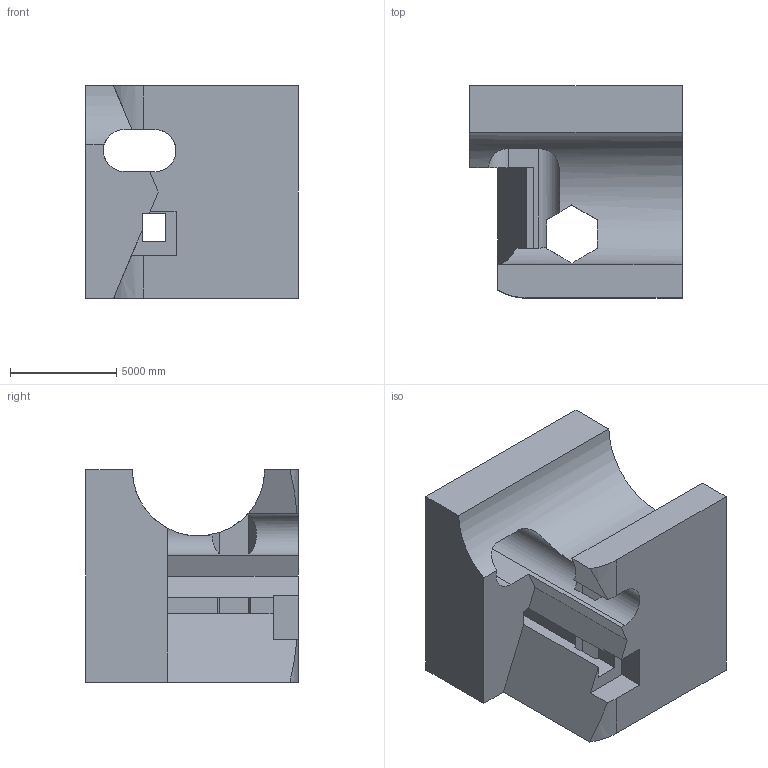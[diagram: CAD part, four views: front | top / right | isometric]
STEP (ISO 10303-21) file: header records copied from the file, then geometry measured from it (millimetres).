
FILE_DESCRIPTION (( 'STEP AP203' ), '1' );
FILE_NAME ('334.STEP', '2022-09-07T15:18:18', ( 'user' ), ( '' ), 'SwSTEP 2.0', 'SolidWorks 2021', '' );
FILE_SCHEMA (( 'CONFIG_CONTROL_DESIGN' ));
Length unit declared in the file: centimetre
Products named in the file (1): 334
Bounding box: 10000 x 10000 x 10000 mm (x, y, z)
Volume: 638615553841.1 mm3; surface area: 673123503.8 mm2
Topology: 1 solids, 1 shells, 37 faces, 120 edges, 80 vertices
Faces by surface type: plane 32, cylinder 5
Entity records: 1591 total; most frequent: CARTESIAN_POINT 463, ORIENTED_EDGE 240, DIRECTION 196, EDGE_CURVE 120, LINE 96, VECTOR 96, VERTEX_POINT 80, AXIS2_PLACEMENT_3D 50
